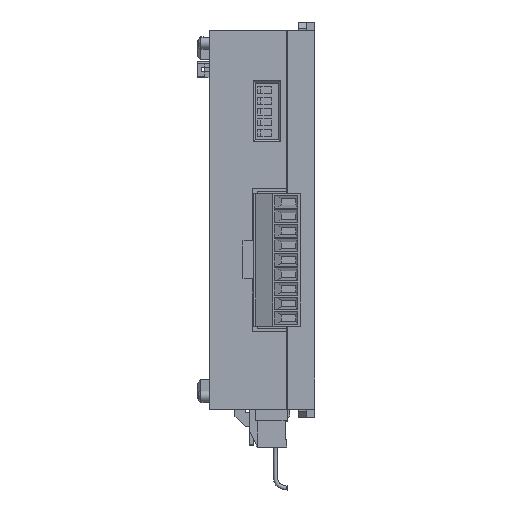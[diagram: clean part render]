
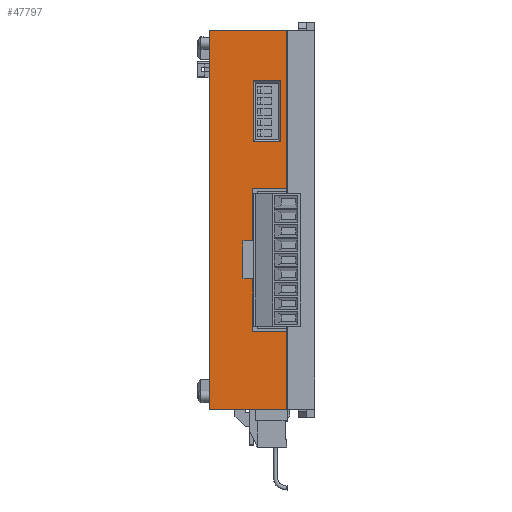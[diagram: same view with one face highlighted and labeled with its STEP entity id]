
A CAD part, top view. The second image highlights one B-rep face of the part: STEP entity #47797.
In plain terms, the highlighted planar face has unit normal (0, 0, 1).
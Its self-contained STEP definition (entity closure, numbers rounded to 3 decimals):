
#493 = VERTEX_POINT ( 'NONE', #33318 ) ;
#621 = EDGE_CURVE ( 'NONE', #493, #625, #33638, .T. ) ;
#625 = VERTEX_POINT ( 'NONE', #33668 ) ;
#2965 = VERTEX_POINT ( 'NONE', #35195 ) ;
#3638 = EDGE_CURVE ( 'NONE', #2965, #29394, #35197, .T. ) ;
#22494 = DIRECTION ( 'NONE',  ( 0., -1., 0. ) ) ;
#22496 = VECTOR ( 'NONE', #22494, 1000. ) ;
#22499 = CARTESIAN_POINT ( 'NONE',  ( -12.5, 45., 60. ) ) ;
#22502 = LINE ( 'NONE', #22499, #22496 ) ;
#22533 = CARTESIAN_POINT ( 'NONE',  ( -12.5, 45., 60. ) ) ;
#22624 = CARTESIAN_POINT ( 'NONE',  ( -12.5, -45., 60. ) ) ;
#27509 = CARTESIAN_POINT ( 'NONE',  ( 4.4, 18.45, 60. ) ) ;
#28080 = CARTESIAN_POINT ( 'NONE',  ( 4.4, 32.95, 60. ) ) ;
#29318 = DIRECTION ( 'NONE',  ( 0., 1., 0. ) ) ;
#29319 = VECTOR ( 'NONE', #29318, 1000. ) ;
#29320 = CARTESIAN_POINT ( 'NONE',  ( -2.2, 32.45, 60. ) ) ;
#29321 = LINE ( 'NONE', #29320, #29319 ) ;
#29331 = CARTESIAN_POINT ( 'NONE',  ( -2.2, 32.95, 60. ) ) ;
#29351 = FACE_BOUND ( 'NONE', #47787, .T. ) ;
#29375 = CARTESIAN_POINT ( 'NONE',  ( -2.2, 18.45, 60. ) ) ;
#29394 = VERTEX_POINT ( 'NONE', #22533 ) ;
#29395 = DIRECTION ( 'NONE',  ( 1., 0., 0. ) ) ;
#29396 = DIRECTION ( 'NONE',  ( 0., 0., 1. ) ) ;
#29397 = CARTESIAN_POINT ( 'NONE',  ( -12.5, -45., 60. ) ) ;
#29398 = AXIS2_PLACEMENT_3D ( 'NONE', #29397, #29396, #29395 ) ;
#29399 = PLANE ( 'NONE',  #29398 ) ;
#29414 = FACE_OUTER_BOUND ( 'NONE', #47874, .T. ) ;
#29491 = DIRECTION ( 'NONE',  ( 1., 0., 0. ) ) ;
#29492 = VECTOR ( 'NONE', #29491, 1000. ) ;
#29493 = CARTESIAN_POINT ( 'NONE',  ( -4.6, -14.05, 60. ) ) ;
#29494 = LINE ( 'NONE', #29493, #29492 ) ;
#29505 = CARTESIAN_POINT ( 'NONE',  ( -4.6, -14.05, 60. ) ) ;
#29526 = CARTESIAN_POINT ( 'NONE',  ( -2.28, -26.6, 60. ) ) ;
#29536 = EDGE_CURVE ( 'NONE', #29394, #29713, #22502, .T. ) ;
#29552 = CARTESIAN_POINT ( 'NONE',  ( -2.28, -14.05, 60. ) ) ;
#29583 = DIRECTION ( 'NONE',  ( 0., -1., 0. ) ) ;
#29584 = VECTOR ( 'NONE', #29583, 1000. ) ;
#29585 = CARTESIAN_POINT ( 'NONE',  ( -2.28, -14.05, 60. ) ) ;
#29586 = LINE ( 'NONE', #29585, #29584 ) ;
#29652 = DIRECTION ( 'NONE',  ( 1., 0., 0. ) ) ;
#29653 = VECTOR ( 'NONE', #29652, 1000. ) ;
#29654 = CARTESIAN_POINT ( 'NONE',  ( 3.9, 32.95, 60. ) ) ;
#29655 = LINE ( 'NONE', #29654, #29653 ) ;
#29671 = DIRECTION ( 'NONE',  ( 1., 0., 0. ) ) ;
#29672 = VECTOR ( 'NONE', #29671, 1000. ) ;
#29673 = CARTESIAN_POINT ( 'NONE',  ( -2.28, -26.6, 60. ) ) ;
#29674 = LINE ( 'NONE', #29673, #29672 ) ;
#29695 = CARTESIAN_POINT ( 'NONE',  ( 5.8, 7.5, 60. ) ) ;
#29697 = DIRECTION ( 'NONE',  ( 0., -1., 0. ) ) ;
#29698 = VECTOR ( 'NONE', #29697, 1000. ) ;
#29699 = CARTESIAN_POINT ( 'NONE',  ( 4.4, 18.95, 60. ) ) ;
#29700 = LINE ( 'NONE', #29699, #29698 ) ;
#29701 = DIRECTION ( 'NONE',  ( 0., -1., 0. ) ) ;
#29702 = VECTOR ( 'NONE', #29701, 1000. ) ;
#29703 = CARTESIAN_POINT ( 'NONE',  ( 5.8, 45., 60. ) ) ;
#29704 = LINE ( 'NONE', #29703, #29702 ) ;
#29705 = DIRECTION ( 'NONE',  ( -1., 0., 0. ) ) ;
#29706 = VECTOR ( 'NONE', #29705, 1000. ) ;
#29707 = CARTESIAN_POINT ( 'NONE',  ( -1.7, 18.45, 60. ) ) ;
#29708 = LINE ( 'NONE', #29707, #29706 ) ;
#29713 = VERTEX_POINT ( 'NONE', #22624 ) ;
#29801 = DIRECTION ( 'NONE',  ( 1., 0., 0. ) ) ;
#29802 = VECTOR ( 'NONE', #29801, 1000. ) ;
#29803 = CARTESIAN_POINT ( 'NONE',  ( -12.5, -45., 60. ) ) ;
#29804 = LINE ( 'NONE', #29803, #29802 ) ;
#29872 = DIRECTION ( 'NONE',  ( -1., 0., 0. ) ) ;
#29873 = VECTOR ( 'NONE', #29872, 1000. ) ;
#29874 = CARTESIAN_POINT ( 'NONE',  ( 5.8, 7.5, 60. ) ) ;
#29875 = LINE ( 'NONE', #29874, #29873 ) ;
#29926 = CARTESIAN_POINT ( 'NONE',  ( -2.28, 7.5, 60. ) ) ;
#29956 = CARTESIAN_POINT ( 'NONE',  ( -2.28, -5.05, 60. ) ) ;
#29988 = DIRECTION ( 'NONE',  ( 0., -1., 0. ) ) ;
#29989 = VECTOR ( 'NONE', #29988, 1000. ) ;
#29990 = CARTESIAN_POINT ( 'NONE',  ( -2.28, 7.5, 60. ) ) ;
#29991 = LINE ( 'NONE', #29990, #29989 ) ;
#30017 = CARTESIAN_POINT ( 'NONE',  ( -4.6, -5.05, 60. ) ) ;
#30040 = DIRECTION ( 'NONE',  ( 0., -1., 0. ) ) ;
#30041 = VECTOR ( 'NONE', #30040, 1000. ) ;
#30042 = CARTESIAN_POINT ( 'NONE',  ( -4.6, -5.05, 60. ) ) ;
#30044 = LINE ( 'NONE', #30042, #30041 ) ;
#30049 = DIRECTION ( 'NONE',  ( -1., 0., 0. ) ) ;
#30050 = VECTOR ( 'NONE', #30049, 1000. ) ;
#30051 = CARTESIAN_POINT ( 'NONE',  ( -2.28, -5.05, 60. ) ) ;
#30052 = LINE ( 'NONE', #30051, #30050 ) ;
#32152 = ORIENTED_EDGE ( 'NONE', *, *, #621, .F. ) ;
#32174 = ORIENTED_EDGE ( 'NONE', *, *, #47984, .T. ) ;
#32194 = ORIENTED_EDGE ( 'NONE', *, *, #3638, .T. ) ;
#32207 = ORIENTED_EDGE ( 'NONE', *, *, #29536, .T. ) ;
#33318 = CARTESIAN_POINT ( 'NONE',  ( 5.8, -26.6, 60. ) ) ;
#33635 = DIRECTION ( 'NONE',  ( 0., -1., 0. ) ) ;
#33636 = VECTOR ( 'NONE', #33635, 1000. ) ;
#33637 = CARTESIAN_POINT ( 'NONE',  ( 5.8, 45., 60. ) ) ;
#33638 = LINE ( 'NONE', #33637, #33636 ) ;
#33668 = CARTESIAN_POINT ( 'NONE',  ( 5.8, -45., 60. ) ) ;
#35195 = CARTESIAN_POINT ( 'NONE',  ( 5.8, 45., 60. ) ) ;
#35197 = LINE ( 'NONE', #35248, #35247 ) ;
#35246 = DIRECTION ( 'NONE',  ( -1., 0., 0. ) ) ;
#35247 = VECTOR ( 'NONE', #35246, 1000. ) ;
#35248 = CARTESIAN_POINT ( 'NONE',  ( -12.5, 45., 60. ) ) ;
#38159 = VERTEX_POINT ( 'NONE', #27509 ) ;
#40334 = ORIENTED_EDGE ( 'NONE', *, *, #47933, .T. ) ;
#40726 = VERTEX_POINT ( 'NONE', #28080 ) ;
#47769 = ORIENTED_EDGE ( 'NONE', *, *, #47923, .T. ) ;
#47779 = VERTEX_POINT ( 'NONE', #29331 ) ;
#47786 = EDGE_CURVE ( 'NONE', #47789, #47779, #29321, .T. ) ;
#47787 = EDGE_LOOP ( 'NONE', ( #47796, #47769, #40334, #47930 ) ) ;
#47789 = VERTEX_POINT ( 'NONE', #29375 ) ;
#47796 = ORIENTED_EDGE ( 'NONE', *, *, #47786, .T. ) ;
#47797 = ADVANCED_FACE ( 'NONE', ( #29351, #29414 ), #29399, .T. ) ;
#47847 = VERTEX_POINT ( 'NONE', #29505 ) ;
#47856 = EDGE_CURVE ( 'NONE', #47847, #47864, #29494, .T. ) ;
#47860 = ORIENTED_EDGE ( 'NONE', *, *, #47856, .F. ) ;
#47864 = VERTEX_POINT ( 'NONE', #29552 ) ;
#47866 = ORIENTED_EDGE ( 'NONE', *, *, #47869, .F. ) ;
#47868 = VERTEX_POINT ( 'NONE', #29526 ) ;
#47869 = EDGE_CURVE ( 'NONE', #47864, #47868, #29586, .T. ) ;
#47874 = EDGE_LOOP ( 'NONE', ( #47918, #47866, #47860, #48079, #48080, #48061, #48029, #47935, #32194, #32207, #32174, #32152 ) ) ;
#47912 = EDGE_CURVE ( 'NONE', #47868, #493, #29674, .T. ) ;
#47918 = ORIENTED_EDGE ( 'NONE', *, *, #47912, .F. ) ;
#47923 = EDGE_CURVE ( 'NONE', #47779, #40726, #29655, .T. ) ;
#47930 = ORIENTED_EDGE ( 'NONE', *, *, #47931, .T. ) ;
#47931 = EDGE_CURVE ( 'NONE', #38159, #47789, #29708, .T. ) ;
#47932 = EDGE_CURVE ( 'NONE', #2965, #47934, #29704, .T. ) ;
#47933 = EDGE_CURVE ( 'NONE', #40726, #38159, #29700, .T. ) ;
#47934 = VERTEX_POINT ( 'NONE', #29695 ) ;
#47935 = ORIENTED_EDGE ( 'NONE', *, *, #47932, .F. ) ;
#47984 = EDGE_CURVE ( 'NONE', #29713, #625, #29804, .T. ) ;
#48026 = EDGE_CURVE ( 'NONE', #47934, #48030, #29875, .T. ) ;
#48029 = ORIENTED_EDGE ( 'NONE', *, *, #48026, .F. ) ;
#48030 = VERTEX_POINT ( 'NONE', #29926 ) ;
#48053 = VERTEX_POINT ( 'NONE', #29956 ) ;
#48061 = ORIENTED_EDGE ( 'NONE', *, *, #48062, .F. ) ;
#48062 = EDGE_CURVE ( 'NONE', #48030, #48053, #29991, .T. ) ;
#48070 = VERTEX_POINT ( 'NONE', #30017 ) ;
#48079 = ORIENTED_EDGE ( 'NONE', *, *, #48091, .F. ) ;
#48080 = ORIENTED_EDGE ( 'NONE', *, *, #48086, .F. ) ;
#48086 = EDGE_CURVE ( 'NONE', #48053, #48070, #30052, .T. ) ;
#48091 = EDGE_CURVE ( 'NONE', #48070, #47847, #30044, .T. ) ;
